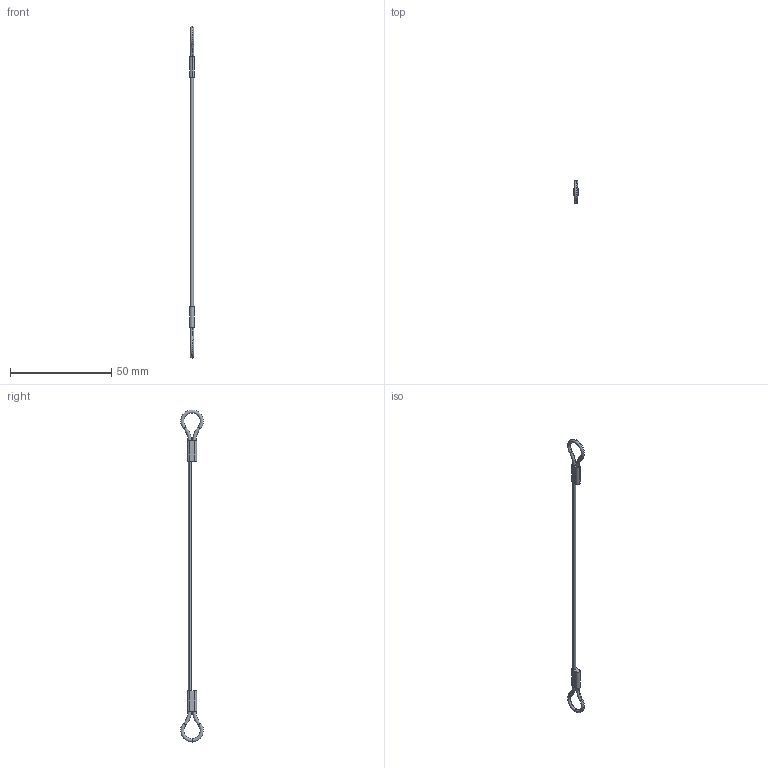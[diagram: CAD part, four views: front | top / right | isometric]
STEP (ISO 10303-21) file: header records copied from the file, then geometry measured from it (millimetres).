
FILE_DESCRIPTION (( 'STEP AP203' ), '1' );
FILE_NAME ('LA1065.I04-152B1.step', '2026-03-23T15:39:55', ( '' ), ( '' ), 'SwSTEP 2.0', 'SolidWorks 2019', '' );
FILE_SCHEMA (( 'CONFIG_CONTROL_DESIGN' ));
Length unit declared in the file: millimetre
Products named in the file (1): LA1065.I04-152B1
Bounding box: 2.4 x 11.18 x 163.57 mm (x, y, z)
Volume: 567.4 mm3; surface area: 1195.4 mm2
Topology: 1 solids, 1 shells, 30 faces, 68 edges, 42 vertices
Faces by surface type: torus 14, cylinder 8, plane 8
Entity records: 945 total; most frequent: DIRECTION 178, CARTESIAN_POINT 141, ORIENTED_EDGE 136, AXIS2_PLACEMENT_3D 79, EDGE_CURVE 68, CIRCLE 48, VERTEX_POINT 42, EDGE_LOOP 36
